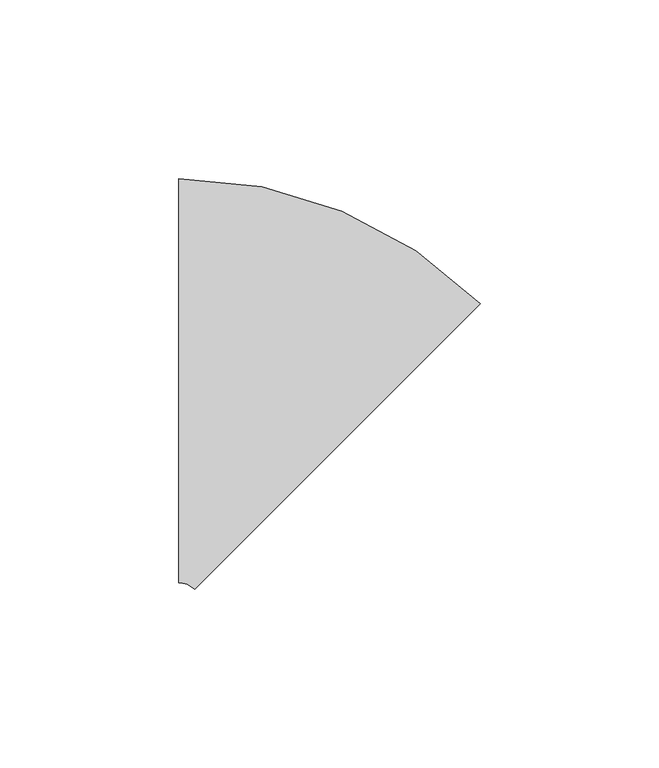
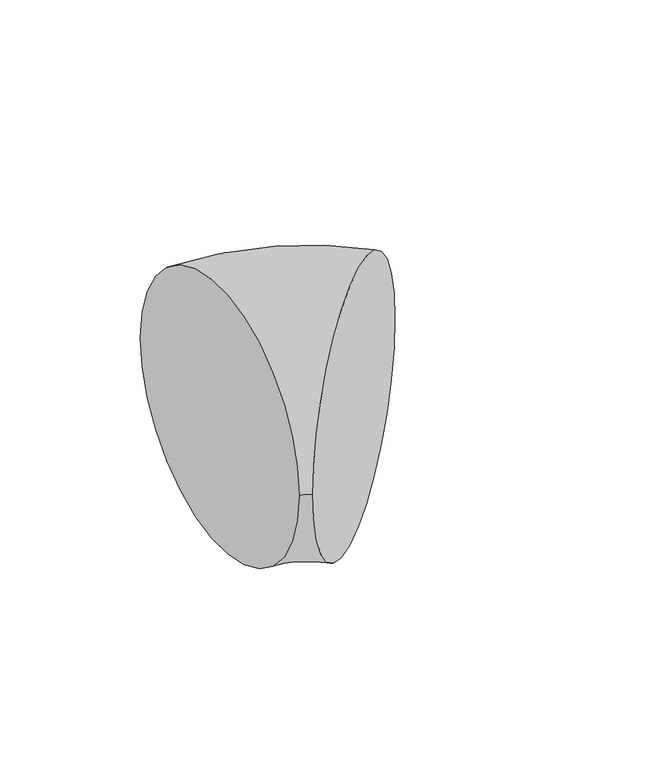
"""IFC4 building model written with IfcOpenShell, lengths in millimetres: pipe fitting geometry, M_Codo - Genérico : Estándar."""

from ifc_helpers import new_model, si_unit, point, frame, origin, place, context, project, spatial, circle_curve, ellipse_curve, trimmed, source, transform, mapped, element, save
from ifc_brep_helpers import plane_surface, revolved_surface, advanced_brep


def pipe_fitting_f9aaa2fa(model_context):
    return source(origin(), model_context, "Body", "AdvancedBrep", [
        advanced_brep(
        [(-26.0680393, 56.5875, 0.0), (-26.0680393, -56.5875, 0.0), (58.4453985, 21.5829381, 0.0), (-21.5780972, -58.447186, 0.0)],
        [
            (0, 1, circle_curve(frame((-26.0680393, 0.0, 0.0), z_axis=(-1.0, 0.0, 0.0), x_axis=(0.0, -1.0, 0.0)), 56.5875)),
            (1, 0, circle_curve(frame((-26.0680393, 0.0, 0.0), z_axis=(-1.0, 0.0, 0.0), x_axis=(0.0, -1.0, 0.0)), 56.5875)),
            (2, 3, circle_curve(frame((18.4336507, -18.432124, 0.0), z_axis=(0.7071360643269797, -0.7070774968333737, 0.0), x_axis=(-0.7070774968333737, -0.7071360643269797, 0.0)), 56.5875)),
            (3, 2, circle_curve(frame((18.4336507, -18.432124, 0.0), z_axis=(0.7071360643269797, -0.7070774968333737, 0.0), x_axis=(-0.7070774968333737, -0.7071360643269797, 0.0)), 56.5875)),
            (2, 0, circle_curve(frame((-26.0680393, -62.9375, 0.0), z_axis=(0.0, 0.0, 1.0), x_axis=(0.0, 1.0, 0.0)), 119.525)),
            (1, 3, circle_curve(frame((-26.0680393, -62.9375, 0.0), z_axis=(0.0, 0.0, -1.0), x_axis=(0.0, 1.0, 0.0)), 6.35)),
        ],
        [
            plane_surface(frame((-26.0680393, 0.0, 0.0), z_axis=(-1.0, 0.0, 0.0), x_axis=(0.0, 0.0, 1.0))),
            plane_surface(frame((18.4336507, -18.432124, 0.0), z_axis=(0.7071360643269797, -0.7070774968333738, 0.0), x_axis=(0.0, 0.0, 1.0))),
            revolved_surface(trimmed(ellipse_curve(frame((-26.0680393, 0.0, 0.0), z_axis=(1.0, 0.0, 0.0), x_axis=(0.0, -1.0, 0.0)), 56.5875, 56.5875), [point((-26.0680393, 56.5875, 0.0))], [point((-26.0680393, -56.5875, 0.0))], True, "CARTESIAN"), (-26.0680393, -62.9375, 0.0), (0.0, 0.0, 1.0)),
            revolved_surface(trimmed(ellipse_curve(frame((-26.0680393, 0.0, 0.0), z_axis=(1.0, 0.0, 0.0), x_axis=(0.0, -1.0, 0.0)), 56.5875, 56.5875), [point((-26.0680393, -56.5875, 0.0))], [point((-26.0680393, 56.5875, 0.0))], True, "CARTESIAN"), (-26.0680393, -62.9375, 0.0), (0.0, 0.0, 1.0)),
        ],
        [
            (0, [[1, 2]]),
            (1, [[3, 4]]),
            (2, [[-3, 5, -2, 6]]),
            (3, [[-4, -6, -1, -5]]),
        ],
    ),
    ])


if __name__ == "__main__":
    model = new_model("IFC4")
    model_context = context("Model", 3, world=origin())
    ifc_project = project(units=[si_unit("LENGTHUNIT", "METRE", prefix="MILLI")], contexts=[model_context])
    site = spatial("IfcSite", under=ifc_project)
    building = spatial("IfcBuilding", under=site)
    placement = place(None, origin())
    pipe_fitting_shape = pipe_fitting_f9aaa2fa(model_context)
    element("IfcPipeFitting", 1, ObjectType="M_Codo - Genérico : Estándar", at=placement, inside=building, context=model_context, shape_type="MappedRepresentation", body=[
        mapped(pipe_fitting_shape, transform((0.0, 0.0, 0.0), x_axis=(1.0, 0.0, 0.0), y_axis=(0.0, 1.0, 0.0), z_axis=(0.0, 0.0, 1.0))),
    ])
    save(model, "model.ifc")
